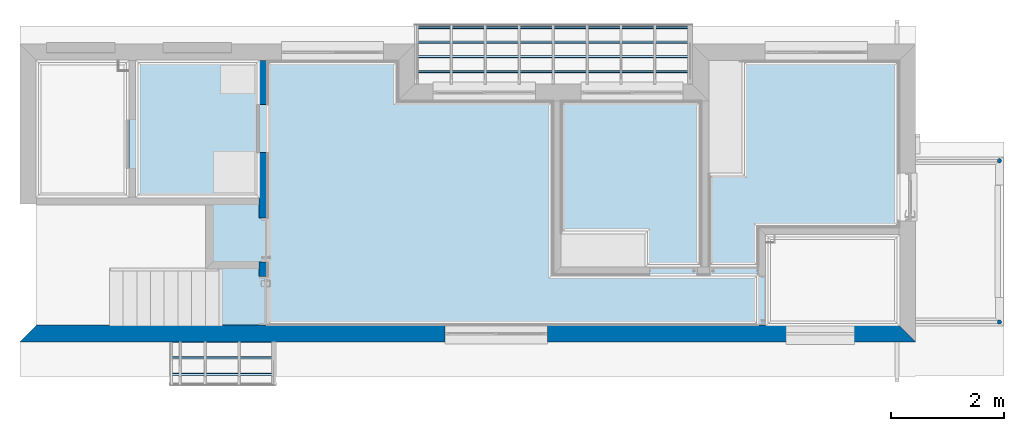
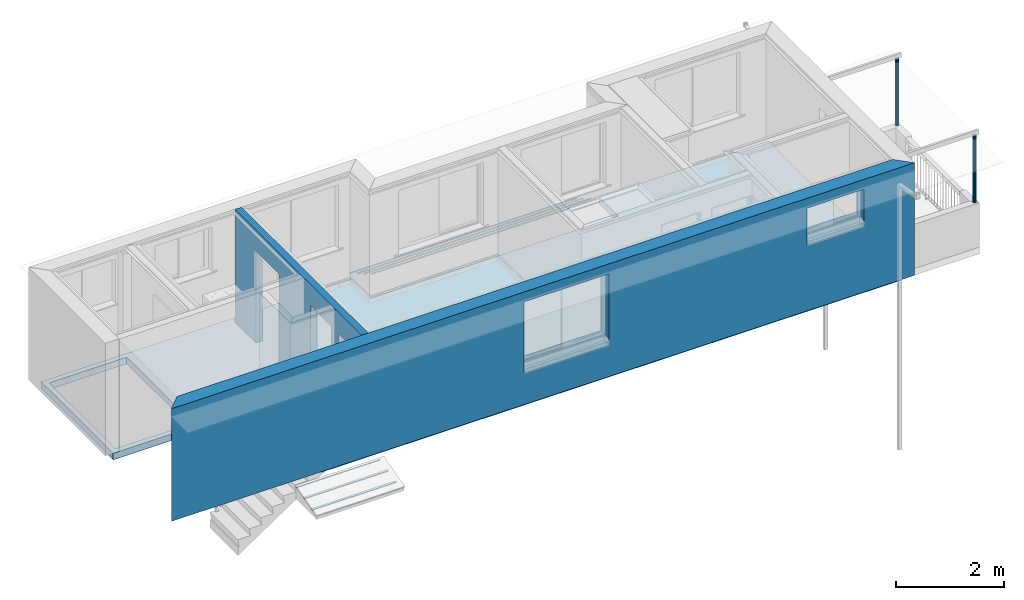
# One storey, part 2 of 18: 3 slabs, 2 columns, 2 walls.
"""IFC2X3 building model written with IfcOpenShell, lengths in millimetres."""

from ifc_helpers import new_model, entity, si_unit, converted_unit, money_unit, direction, frame, origin_with_axes, place, context, subcontext, project, spatial, faceted_brep, source, transform, mapped, material, material_list, type_object, element, save


model = new_model("IFC2X3")

# Units and contexts
model_context = context("Model", 3, precision=1e-05, world=origin_with_axes(), true_north=direction((0.0, 1.0)))
body_context = subcontext(model_context, "Body", "Model", "MODEL_VIEW")
ifc_project = project(units=[si_unit("LENGTHUNIT", "METRE", prefix="MILLI"), si_unit("AREAUNIT", "SQUARE_METRE"), si_unit("VOLUMEUNIT", "CUBIC_METRE"), converted_unit("PLANEANGLEUNIT", "DEGREE", entity("IfcPlaneAngleMeasure", 0.0174532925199), si_unit("PLANEANGLEUNIT", "RADIAN"), dimensions=[0, 0, 0, 0, 0, 0, 0]), si_unit("SOLIDANGLEUNIT", "STERADIAN"), money_unit("AUD"), si_unit("TIMEUNIT", "SECOND"), si_unit("MASSUNIT", "GRAM"), si_unit("THERMODYNAMICTEMPERATUREUNIT", "DEGREE_CELSIUS"), si_unit("LUMINOUSINTENSITYUNIT", "LUMEN")], contexts=[model_context])

# Site, building, storey
site_placement = place(None, origin_with_axes())
site = spatial("IfcSite", under=ifc_project, at=site_placement, Name="Lot 1. East Hills", CompositionType="ELEMENT")
building_placement = place(site_placement, origin_with_axes())
building = spatial("IfcBuilding", under=site, at=building_placement, Name="Proposed Units 7 & 8", CompositionType="ELEMENT")
storey_placement = place(building_placement, frame((0.0, 0.0, 5859.0), z_axis=(0.0, 0.0, 1.0), x_axis=(1.0, 0.0, 0.0)))
storey = spatial("IfcBuildingStorey", under=building, at=storey_placement, Name="Level 1", CompositionType="ELEMENT", Elevation=5859.0)

# Columns
ifc_material_1 = material(Name="Concrete Reinforced")
column_type = type_object("IfcColumnType", Name="Concrete Reinforced D75", PredefinedType="NOTDEFINED")
for number, where, z_axis, x_axis, name in (
    (1, (17310.0, 3200.22809026, 925.0), (0.0, 0.0, 1.0), (1.0, 0.0, 0.0), "Column002 Concrete Reinforced Column"),
    (2, (17310.0, 350.000032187, 925.0), (0.0, 0.0, 1.0), (1.0, 0.0, 0.0), "Column002 Concrete Reinforced Column"),
):
    element("IfcColumn", number, at=place(storey_placement, frame(where, z_axis=z_axis, x_axis=x_axis)), inside=storey, type_object=column_type, material=ifc_material_1, Name=name, ObjectType="Concrete Reinforced D75", context=body_context, shape_type="Brep", body=[
        faceted_brep([(37.5, 10.0480947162, 0.0), (27.4519052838, 27.4519052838, 0.0), (27.4519052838, 27.4519052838, 1507.0), (37.5, 10.0480947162, 1507.0), (37.5, -10.0480947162, 0.0), (27.4519052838, -27.4519052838, 0.0), (10.0480947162, -37.5, 0.0), (-10.0480947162, -37.5, 0.0), (-27.4519052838, -27.4519052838, 0.0), (-37.5, -10.0480947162, 0.0), (-37.5, 10.0480947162, 0.0), (-27.4519052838, 27.4519052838, 0.0), (-10.0480947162, 37.5, 0.0), (10.0480947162, 37.5, 0.0), (10.0480947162, 37.5, 1507.0), (-10.0480947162, 37.5, 1507.0), (-27.4519052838, 27.4519052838, 1507.0), (-37.5, 10.0480947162, 1507.0), (-37.5, -10.0480947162, 1507.0), (-27.4519052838, -27.4519052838, 1507.0), (-10.0480947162, -37.5, 1507.0), (10.0480947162, -37.5, 1507.0), (27.4519052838, -27.4519052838, 1507.0), (37.5, -10.0480947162, 1507.0)], [[[0, 1, 2, 3]], [[0, 4, 5, 6, 7, 8, 9, 10, 11, 12, 13, 1]], [[1, 13, 14, 2]], [[3, 2, 14, 15, 16, 17, 18, 19, 20, 21, 22, 23]], [[4, 0, 3, 23]], [[5, 4, 23, 22]], [[6, 5, 22, 21]], [[7, 6, 21, 20]], [[8, 7, 20, 19]], [[9, 8, 19, 18]], [[10, 9, 18, 17]], [[11, 10, 17, 16]], [[12, 11, 16, 15]], [[13, 12, 15, 14]]]),
    ])

# Slabs
ifc_material_2 = material(Name="50 %")
slab_type_1 = type_object("IfcSlabType", Name="Battens for Roof Tiles 12", PredefinedType="NOTDEFINED")
shared_shape_1 = source(origin_with_axes(), body_context, "Body", "Brep", [
    faceted_brep([(0.0, 0.0, 0.0), (0.0, -12.5566383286, 21.617836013), (-4821.50000065, -12.5566383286, 21.617836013), (-4821.50000065, 0.0, 0.0), (0.0, 32.8591107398, 19.0860902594), (0.0, 20.3024724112, 40.7039262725), (-4821.50000065, 20.3024724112, 40.7039262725), (-4821.50000065, 32.8591107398, 19.0860902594)], [[[0, 1, 2, 3]], [[4, 5, 1, 0]], [[1, 5, 6, 2]], [[3, 2, 6, 7]], [[0, 3, 7, 4]], [[7, 6, 5, 4]]]),
    faceted_brep([(0.0, 259.414032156, 150.679659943), (0.0, 246.857393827, 172.297495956), (-4821.50000065, 246.857393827, 172.297495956), (-4821.50000065, 259.414032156, 150.679659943), (0.0, 292.273142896, 169.765750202), (0.0, 279.716504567, 191.383586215), (-4821.50000065, 279.716504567, 191.383586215), (-4821.50000065, 292.273142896, 169.765750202)], [[[0, 1, 2, 3]], [[4, 5, 1, 0]], [[1, 5, 6, 2]], [[3, 2, 6, 7]], [[0, 3, 7, 4]], [[7, 6, 5, 4]]]),
    faceted_brep([(0.0, 518.828064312, 301.359319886), (0.0, 506.271425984, 322.977155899), (-4821.50000065, 506.271425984, 322.977155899), (-4821.50000065, 518.828064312, 301.359319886), (0.0, 551.687175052, 320.445410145), (0.0, 539.130536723, 342.063246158), (-4821.50000065, 539.130536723, 342.063246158), (-4821.50000065, 551.687175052, 320.445410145)], [[[0, 1, 2, 3]], [[4, 5, 1, 0]], [[1, 5, 6, 2]], [[3, 2, 6, 7]], [[0, 3, 7, 4]], [[7, 6, 5, 4]]]),
    faceted_brep([(0.0, 778.242096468, 452.038979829), (0.0, 765.68545814, 473.656815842), (-4821.50000065, 765.68545814, 473.656815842), (-4821.50000065, 778.242096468, 452.038979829), (0.0, 811.101207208, 471.125070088), (0.0, 798.544568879, 492.742906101), (-4821.50000065, 798.544568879, 492.742906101), (-4821.50000065, 811.101207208, 471.125070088)], [[[0, 1, 2, 3]], [[4, 5, 1, 0]], [[1, 5, 6, 2]], [[3, 2, 6, 7]], [[0, 3, 7, 4]], [[7, 6, 5, 4]]]),
])
slab_1_placement = place(storey_placement, frame((7022.5, 5563.73573739, -254.363933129), z_axis=(0.0, 0.0, 1.0), x_axis=(-1.0, 0.0, 0.0)))
element("IfcSlab", 3, at=slab_1_placement, inside=storey, type_object=slab_type_1, material=ifc_material_2, Name="BATTEN_01 - Battens for Roof Tiles 12 - object -", PredefinedType="ROOF", context=body_context, shape_type="MappedRepresentation", body=[
    mapped(shared_shape_1, transform((0.0, 0.0, 0.0))),
])
shared_shape_2 = source(origin_with_axes(), body_context, "Body", "Brep", [
    faceted_brep([(0.0, 0.0, 0.0), (1794.45727613, 0.0, 0.0), (1794.45727613, -6.47047612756, 24.1481456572), (0.0, -6.47047612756, 24.1481456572), (0.0, 36.705181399, 9.8351237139), (1794.45727613, 36.705181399, 9.8351237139), (1794.45727613, 30.2347052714, 33.9832693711), (0.0, 30.2347052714, 33.9832693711)], [[[0, 1, 2, 3]], [[0, 4, 5, 1]], [[1, 5, 6, 2]], [[3, 2, 6, 7]], [[4, 0, 3, 7]], [[5, 4, 7, 6]]]),
    faceted_brep([(0.0, 289.777747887, 77.6457135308), (1794.45727613, 289.777747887, 77.6457135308), (1794.45727613, 283.307271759, 101.793859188), (0.0, 283.307271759, 101.793859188), (0.0, 326.482929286, 87.4808372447), (1794.45727613, 326.482929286, 87.4808372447), (1794.45727613, 320.012453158, 111.628982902), (0.0, 320.012453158, 111.628982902)], [[[0, 1, 2, 3]], [[0, 4, 5, 1]], [[1, 5, 6, 2]], [[3, 2, 6, 7]], [[4, 0, 3, 7]], [[5, 4, 7, 6]]]),
    faceted_brep([(0.0, 579.555495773, 155.291427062), (1794.45727613, 579.555495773, 155.291427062), (1794.45727613, 573.085019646, 179.439572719), (0.0, 573.085019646, 179.439572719), (0.0, 585.709836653, 156.94047773), (1794.45727613, 585.709836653, 156.94047773), (1794.45727613, 585.709836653, 182.822382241), (0.0, 585.709836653, 182.822382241)], [[[0, 1, 2, 3]], [[0, 4, 5, 1]], [[1, 5, 6, 2]], [[3, 2, 6, 7]], [[4, 0, 3, 7]], [[5, 4, 7, 6]]]),
])
slab_2_placement = place(storey_placement, frame((2659.41720971, -587.712571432, -333.607127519), z_axis=(0.0, 0.0, 1.0), x_axis=(1.0, 0.0, 0.0)))
element("IfcSlab", 4, at=slab_2_placement, inside=storey, type_object=slab_type_1, material=ifc_material_2, Name="BATTEN_01 - Battens for Roof Tiles 12 - object -", PredefinedType="ROOF", context=body_context, shape_type="MappedRepresentation", body=[
    mapped(shared_shape_2, transform((0.0, 0.0, 0.0))),
])
slab_type_2 = type_object("IfcSlabType", Name="Concrete Reinforced 150", PredefinedType="FLOOR")
slab_3_placement = place(storey_placement, frame((169.999999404, 5093.00008576, 0.0), z_axis=(0.0, 0.0, 1.0), x_axis=(1.0, 0.0, 0.0)))
element("IfcSlab", 5, at=slab_3_placement, inside=storey, type_object=slab_type_2, material=ifc_material_1, Name="Slab002 Concrete Reinforced Slab", PredefinedType="FLOOR", context=body_context, shape_type="Brep", body=[
    faceted_brep([(3338.99988668, -4814.95548415, 0.0), (3109.99992511, -4814.95548415, 0.0), (3109.99992511, -4925.00027367, 0.0), (15490.000007, -4925.00027367, 0.0), (15490.0009303, -4815.02305539, 0.0), (15530.0009302, -4815.02670314, 0.0), (15530.2737844, -1823.00370554, 0.0), (15490.2737846, -1823.00005778, 0.0), (15490.000007, 0.0, 0.0), (11880.000183, 0.0, 0.0), (11880.000183, -709.87461005, 0.0), (6635.00002022, -709.87461005, 0.0), (6635.00002022, 0.0, 0.0), (0.0, 0.0, 0.0), (0.0, -2660.00001611, 0.0), (3109.99992511, -2660.00024693, 0.0), (3109.99992511, -3869.95548415, 0.0), (3338.99988668, -3869.95548415, 0.0), (1759.99996727, -2550.00017685, 0.0), (110.000070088, -2550.00017685, 0.0), (110.000070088, -110.000070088, 0.0), (1759.99996727, -110.000070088, 0.0), (15379.9999369, -4815.01728473, 0.0), (13005.0000709, -4814.99997275, 0.0), (13005.0005326, -3195.00011567, 0.0), (15379.9999369, -3195.00011567, 0.0), (3338.99988668, -4814.95548415, -150.0), (3109.99992511, -4814.95548415, -150.0), (3109.99992511, -4925.00027367, -150.0), (15490.000007, -4925.00027367, -150.0), (15490.0009303, -4815.02305539, -150.0), (15530.0009302, -4815.02670314, -150.0), (15530.001115, -4813.00001092, -150.0), (15530.001115, -4813.00001092, -75.0), (15530.2737844, -1823.00005778, -75.0), (15490.2737846, -1823.00005778, -75.0), (15490.2737846, -1823.00001411, -150.0), (15490.000007, 0.0, -150.0), (11880.000183, 0.0, -150.0), (11880.000183, -709.87461005, -150.0), (6635.00002022, -709.87461005, -150.0), (6635.00002022, 0.0, -150.0), (0.0, 0.0, -150.0), (0.0, -2660.00001611, -150.0), (3109.99992511, -2660.00024693, -150.0), (3109.99992511, -3869.95548415, -150.0), (3338.99988668, -3869.95548415, -150.0), (1759.99996727, -2550.00017685, -150.0), (110.000070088, -2550.00017685, -150.0), (110.000070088, -110.000070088, -150.0), (1759.99996727, -110.000070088, -150.0), (15379.9999369, -4815.01728473, -150.0), (13005.0000709, -4814.99997275, -150.0), (13005.0005326, -3195.00011567, -150.0), (15379.9999369, -3195.00011567, -150.0), (15380.0000013, -1823.00005778, -150.0), (15380.4067803, -4813.00000712, -150.0), (15380.4067803, -4813.00000712, -75.0), (15380.0000013, -1823.00005778, -75.0)], [[[0, 1, 2, 3, 4, 5, 6, 7, 8, 9, 10, 11, 12, 13, 14, 15, 16, 17], [18, 19, 20, 21], [22, 23, 24, 25]], [[1, 0, 26, 27]], [[1, 27, 28, 2]], [[2, 28, 29, 3]], [[3, 29, 30, 4]], [[4, 30, 31, 5]], [[32, 33, 34, 6, 5, 31]], [[34, 35, 7, 6]], [[35, 36, 37, 8, 7]], [[8, 37, 38, 9]], [[9, 38, 39, 10]], [[10, 39, 40, 11]], [[11, 40, 41, 12]], [[12, 41, 42, 13]], [[13, 42, 43, 14]], [[14, 43, 44, 15]], [[45, 16, 15, 44]], [[17, 16, 45, 46]], [[0, 17, 46, 26]], [[18, 47, 48, 19]], [[19, 48, 49, 20]], [[20, 49, 50, 21]], [[21, 50, 47, 18]], [[22, 51, 52, 23]], [[23, 52, 53, 24]], [[24, 53, 54, 25]], [[25, 54, 51, 22]], [[46, 45, 44, 43, 42, 41, 40, 39, 38, 37, 36, 55, 56, 32, 31, 30, 29, 28, 27, 26], [49, 48, 47, 50], [53, 52, 51, 54]], [[33, 32, 56, 57]], [[35, 34, 33, 57, 58]], [[36, 35, 58, 55]], [[56, 55, 58, 57]]]),
])

# Walls
ifc_material_3 = material(Name="Brickwork Faced")
ifc_material_4 = material(Name="Cavity")
ifc_material_5 = material(Name="Cement Render")
ifc_material_list_1 = material_list([ifc_material_3, ifc_material_4, ifc_material_3, ifc_material_5])
wall_type_1 = type_object("IfcWallType", Name="Cavity wall 280 295", PredefinedType="NOTDEFINED")
wall_1_placement = place(storey_placement, frame((0.0, -2.0, 0.0), z_axis=(0.0, 0.0, 1.0), x_axis=(0.999999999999, -1.10943373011e-06, 0.0)))
element("IfcWall", 6, at=wall_1_placement, inside=storey, type_object=wall_type_1, material=ifc_material_list_1, Name="EXT-WALL-107 Cavity wall 280 Wall", context=body_context, shape_type="Brep", body=[
    faceted_brep([(13540.1182645, 157.504447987, 1629.0), (14750.1182645, 157.504447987, 1629.0), (14750.1182645, 294.999998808, 1629.0), (13540.1182645, 294.999998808, 1629.0), (13540.1182645, 157.504447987, 1483.05078588), (14750.1182645, 157.504447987, 1483.05078588), (14750.1182645, 120.0, 1629.0), (14750.1182645, 120.0, 2314.0), (14750.1182645, 294.999998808, 2314.0), (294.999671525, 294.999998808, 0.0), (294.999671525, 294.999998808, 2536.0), (15534.9996739, 294.999998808, 2536.0), (15534.9996739, 294.999998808, 0.0), (7510.47189682, 294.999998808, 857.0), (9320.47189682, 294.999998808, 857.0), (9320.47189682, 294.999998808, 2314.0), (7510.47189682, 294.999998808, 2314.0), (13540.1182645, 294.999998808, 2314.0), (13540.1182645, 120.0, 1629.0), (13540.1182645, 120.0, 2314.0), (13540.1182645, 0.0, 1629.0), (13540.1182645, 0.0, 1483.05078588), (13540.1182645, 0.0, 2314.0), (14750.1182645, 0.0, 1483.05078588), (14750.1182645, 0.0, 1629.0), (14750.1182645, 0.0, 2314.0), (0.0, 0.0, 0.0), (0.0, 0.0, 2536.0), (15830.0, 0.0, 2536.0), (15830.0, 0.0, 0.0), (9320.47189682, 157.504447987, 857.0), (7510.47189682, 157.504447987, 857.0), (9320.47189682, 120.0, 2314.0), (9320.47189682, 120.0, 857.0), (7510.47189682, 120.0, 2314.0), (7510.47189682, 120.0, 857.0), (7510.47189682, 0.0, 2314.0), (9320.47189682, 0.0, 2314.0), (9320.47189682, 0.0, 711.050785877), (7510.47189682, 0.0, 711.050785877), (7510.47189682, 157.504447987, 711.050785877), (9320.47189682, 157.504447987, 711.050785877)], [[[0, 1, 2, 3]], [[1, 0, 4, 5]], [[1, 6, 7, 8, 2]], [[9, 10, 11, 12], [13, 14, 15, 16], [17, 3, 2, 8]], [[18, 0, 3, 17, 19]], [[20, 21, 4, 0, 18, 19, 22]], [[21, 23, 5, 4]], [[6, 1, 5, 23, 24, 25, 7]], [[19, 17, 8, 7]], [[9, 26, 27, 10]], [[10, 27, 28, 11]], [[29, 12, 11, 28]], [[26, 9, 12, 29]], [[30, 14, 13, 31]], [[32, 15, 14, 30, 33]], [[16, 15, 32, 34]], [[13, 16, 34, 35, 31]], [[27, 26, 29, 28], [21, 20, 22, 25, 24, 23], [36, 37, 38, 39]], [[22, 19, 7, 25]], [[31, 40, 41, 30]], [[38, 37, 32, 33, 30, 41]], [[34, 32, 37, 36]], [[31, 35, 34, 36, 39, 40]], [[38, 41, 40, 39]]]),
])
ifc_material_list_2 = material_list([ifc_material_5, ifc_material_3, ifc_material_5])
wall_type_2 = type_object("IfcWallType", Name="Solid Brick Render Both Side 140 140", PredefinedType="NOTDEFINED")
wall_2_placement = place(storey_placement, frame((4225.00441391, 5262.99988731, 0.0), z_axis=(0.0, 0.0, 1.0), x_axis=(0.0, -1.0, 0.0)))
element("IfcWall", 7, at=wall_2_placement, inside=storey, type_object=wall_type_2, material=ifc_material_list_2, Name="Wall006 Solid Brick Render Both Side 140 Wall", context=body_context, shape_type="Brep", body=[
    faceted_brep([(1919.99999933, 139.999999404, 0.0), (1919.99999933, 139.999999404, 2067.0), (1069.99999933, 139.999999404, 2067.0), (1069.99999933, 139.999999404, 0.0), (294.999886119, 139.999999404, 0.0), (294.999886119, 139.999999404, 2536.0), (4970.00473119, 139.999999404, 2536.0), (4970.00473119, 139.999999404, 0.0), (4962.50457587, 139.999999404, 0.0), (4962.50457587, 139.999999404, 2067.0), (4112.50457587, 139.999999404, 2067.0), (4112.50457587, 139.999999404, 0.0), (3855.84054541, 139.999999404, 0.0), (3855.84054541, 139.999999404, 2067.0), (3075.84054541, 139.999999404, 2067.0), (3075.84054541, 139.999999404, 0.0), (1919.99999933, 0.0, 0.0), (1919.99999933, 0.0, 2067.0), (1069.99999933, 0.0, 2067.0), (1069.99999933, 0.0, 0.0), (294.999886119, 0.0, 0.0), (294.999886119, 0.0, 2536.0), (4970.00457587, 0.0, 2536.0), (4970.00457587, 0.0, 0.0), (4962.50457587, 0.0, 0.0), (4962.50457587, 0.0, 2067.0), (4112.50457587, 0.0, 2067.0), (4112.50457587, 0.0, 0.0), (3855.84054541, 0.0, 0.0), (3855.84054541, 0.0, 2067.0), (3075.84054541, 0.0, 2067.0), (3075.84054541, 0.0, 0.0)], [[[0, 1, 2, 3, 4, 5, 6, 7, 8, 9, 10, 11, 12, 13, 14, 15]], [[1, 0, 16, 17]], [[2, 1, 17, 18]], [[3, 2, 18, 19]], [[3, 19, 20, 4]], [[5, 4, 20, 21]], [[6, 5, 21, 22]], [[6, 22, 23, 7]], [[7, 23, 24, 8]], [[24, 25, 9, 8]], [[25, 26, 10, 9]], [[26, 27, 11, 10]], [[27, 28, 12, 11]], [[29, 13, 12, 28]], [[30, 14, 13, 29]], [[31, 15, 14, 30]], [[16, 0, 15, 31]], [[17, 16, 31, 30, 29, 28, 27, 26, 25, 24, 23, 22, 21, 20, 19, 18]]]),
])

save(model, "model.ifc")
